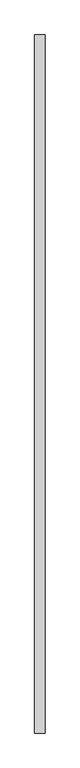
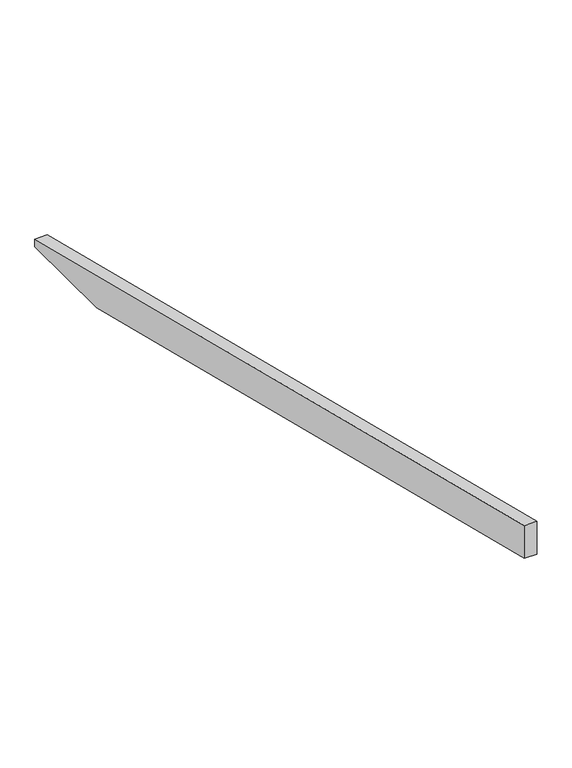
"""IFC4 building model written with IfcOpenShell, lengths in millimetres: proxy geometry, Modelos genéricos 35 : Modelos genéricos 12."""

from ifc_helpers import new_model, si_unit, frame, origin, place, context, project, spatial, polyline, outline, extrude, source, transform, mapped, element, save


def generic_models_425c2f4d(model_context):
    return source(origin(), model_context, "Body", "SweptSolid", [
        extrude(outline(polyline([(6078.6238165, 3197.4798401), (6078.6238165, 3160.0), (5567.5767654, 3160.0), (2018.6238165, 4044.8533509), (2018.6238165, 4209.7515316), (6078.6238165, 3197.4798401)])), frame((-9026.5527533, 0.0, 0.0), z_axis=(1.0, 0.0, 0.0), x_axis=(0.0, 1.0, 0.0)), (0.0, 0.0, 1.0), 60.0),
    ])


if __name__ == "__main__":
    model = new_model("IFC4")
    model_context = context("Model", 3, world=origin())
    ifc_project = project(units=[si_unit("LENGTHUNIT", "METRE", prefix="MILLI")], contexts=[model_context])
    site = spatial("IfcSite", under=ifc_project)
    building = spatial("IfcBuilding", under=site)
    placement = place(None, origin())
    generic_models_shape = generic_models_425c2f4d(model_context)
    element("IfcBuildingElementProxy", 1, Name="Modelos genéricos 35 : Modelos genéricos 12", ObjectType="Modelos genéricos 35 : Modelos genéricos 12", at=placement, inside=building, context=model_context, shape_type="MappedRepresentation", body=[
        mapped(generic_models_shape, transform((0.0, 0.0, 0.0), x_axis=(1.0, 0.0, 0.0), y_axis=(0.0, 1.0, 0.0), z_axis=(0.0, 0.0, 1.0))),
    ])
    save(model, "model.ifc")
